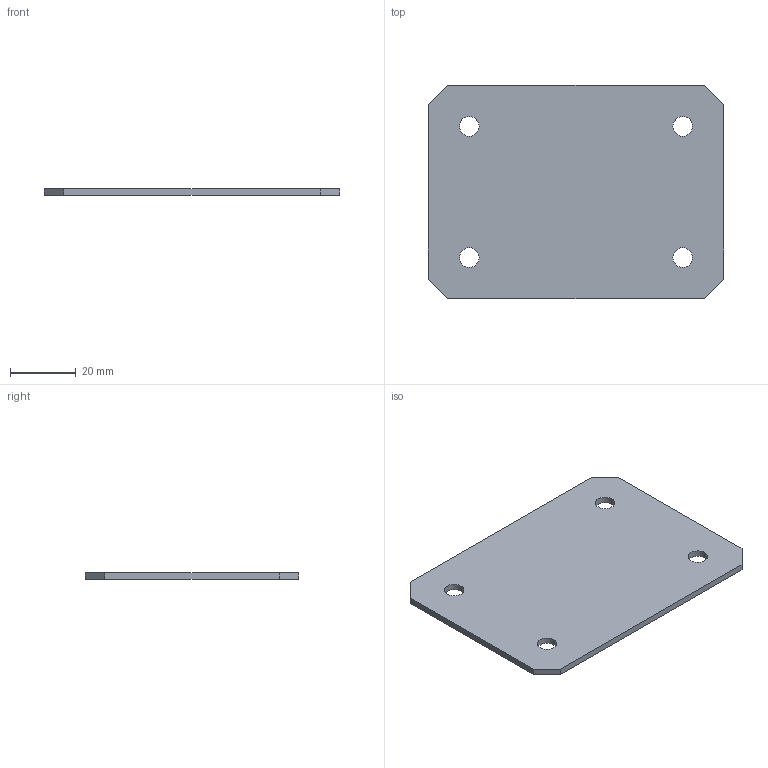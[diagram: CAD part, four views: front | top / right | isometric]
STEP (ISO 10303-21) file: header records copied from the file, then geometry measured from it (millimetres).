
FILE_DESCRIPTION( ( '' ), '1' );
FILE_NAME( 'D:/task/qc/New SAH/New folder (2)/48433/48433.stp', '2018-10-03T10:55:56', ( '' ), ( '' ), ' ', ' ', ' ' );
FILE_SCHEMA( ( 'automotive_design' ) );
Length unit declared in the file: millimetre
Products named in the file (1): 1
Bounding box: 90 x 65 x 2 mm (x, y, z)
Volume: 11329.8 mm3; surface area: 12072.5 mm2
Topology: 1 solids, 1 shells, 18 faces, 48 edges, 32 vertices
Faces by surface type: plane 10, cylinder 8
Entity records: 1152 total; most frequent: DIRECTION 102, STYLED_ITEM 99, PRESENTATION_STYLE_ASSIGNMENT 99, CARTESIAN_POINT 99, COLOUR_RGB 99, ORIENTED_EDGE 96, EDGE_CURVE 48, CURVE_STYLE 48
